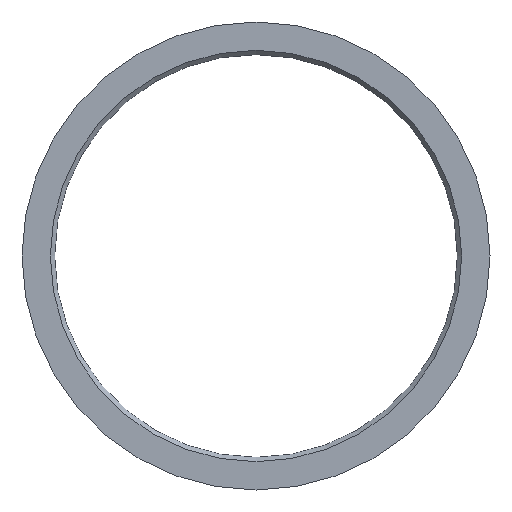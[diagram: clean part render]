
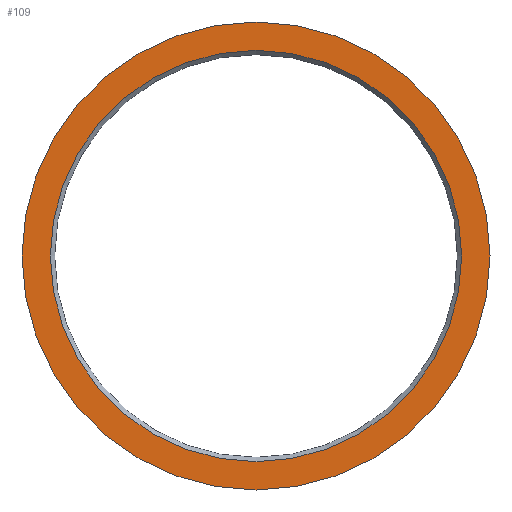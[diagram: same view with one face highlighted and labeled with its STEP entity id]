
A CAD part, front view. The second image highlights one B-rep face of the part: STEP entity #109.
In plain terms, the highlighted planar face has unit normal (0, -1, 0).
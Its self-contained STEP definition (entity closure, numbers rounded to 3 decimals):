
#16=FACE_BOUND('',#34,.T.);
#18=PLANE('',#144);
#25=FACE_OUTER_BOUND('',#33,.T.);
#33=EDGE_LOOP('',(#90));
#34=EDGE_LOOP('',(#91));
#51=CIRCLE('',#143,47.55);
#52=CIRCLE('',#145,54.1);
#59=VERTEX_POINT('',#202);
#60=VERTEX_POINT('',#206);
#70=EDGE_CURVE('',#59,#59,#51,.T.);
#71=EDGE_CURVE('',#60,#60,#52,.T.);
#90=ORIENTED_EDGE('',*,*,#71,.F.);
#91=ORIENTED_EDGE('',*,*,#70,.F.);
#109=ADVANCED_FACE('',(#25,#16),#18,.F.);
#143=AXIS2_PLACEMENT_3D('',#204,#171,#172);
#144=AXIS2_PLACEMENT_3D('',#205,#173,#174);
#145=AXIS2_PLACEMENT_3D('',#207,#175,#176);
#171=DIRECTION('center_axis',(0.,-1.,0.));
#172=DIRECTION('ref_axis',(1.,0.,0.));
#173=DIRECTION('center_axis',(0.,1.,0.));
#174=DIRECTION('ref_axis',(0.,0.,1.));
#175=DIRECTION('center_axis',(0.,1.,0.));
#176=DIRECTION('ref_axis',(-1.,0.,0.));
#202=CARTESIAN_POINT('',(-47.55,0.,0.));
#204=CARTESIAN_POINT('Origin',(0.,0.,0.));
#205=CARTESIAN_POINT('Origin',(0.,0.,0.));
#206=CARTESIAN_POINT('',(-54.1,0.,0.));
#207=CARTESIAN_POINT('Origin',(0.,0.,0.));
